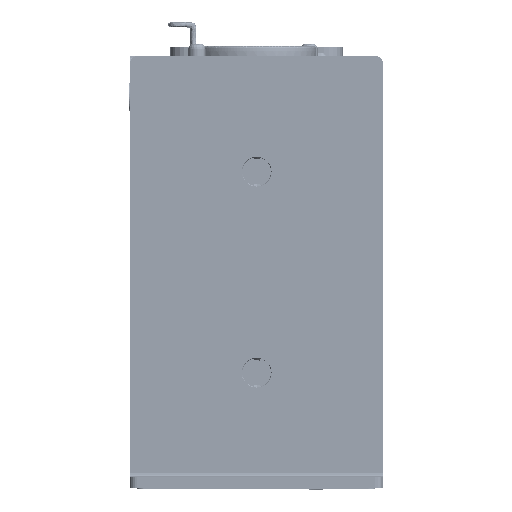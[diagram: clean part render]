
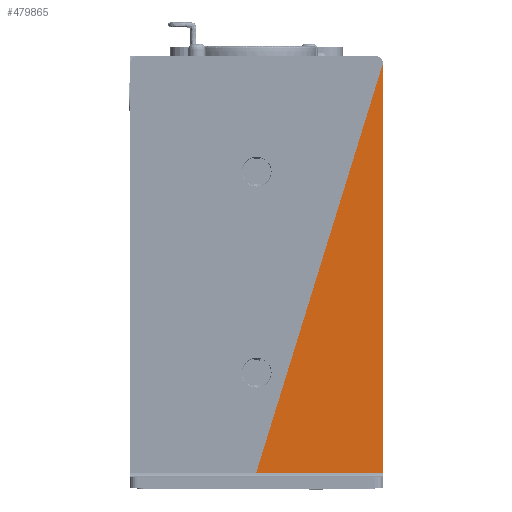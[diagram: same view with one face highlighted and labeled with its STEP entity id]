
A CAD part, left-side view. The second image highlights one B-rep face of the part: STEP entity #479865.
In plain terms, the highlighted planar face has unit normal (-1, 0, 0).
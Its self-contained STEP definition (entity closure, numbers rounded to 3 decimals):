
#465238 = VERTEX_POINT('',#465239);
#465239 = CARTESIAN_POINT('',(-232.006,-2.,-34.944));
#465252 = PLANE('',#465253);
#465253 = AXIS2_PLACEMENT_3D('',#465254,#465255,#465256);
#465254 = CARTESIAN_POINT('',(-231.499,-2.,1.116));
#465255 = DIRECTION('',(-0.,-1.,-0.));
#465256 = DIRECTION('',(0.,0.,-1.));
#465292 = EDGE_CURVE('',#465293,#465238,#465295,.T.);
#465293 = VERTEX_POINT('',#465294);
#465294 = CARTESIAN_POINT('',(-232.006,-2.,36.19));
#465295 = SURFACE_CURVE('',#465296,(#465300,#465307),.PCURVE_S1.);
#465296 = LINE('',#465297,#465298);
#465297 = CARTESIAN_POINT('',(-232.006,-2.,36.19));
#465298 = VECTOR('',#465299,1.);
#465299 = DIRECTION('',(0.,0.,-1.));
#465300 = PCURVE('',#465252,#465301);
#465301 = DEFINITIONAL_REPRESENTATION('',(#465302),#465306);
#465302 = LINE('',#465303,#465304);
#465303 = CARTESIAN_POINT('',(-35.074,-0.507));
#465304 = VECTOR('',#465305,1.);
#465305 = DIRECTION('',(1.,0.));
#465306 = ( GEOMETRIC_REPRESENTATION_CONTEXT(2) 
PARAMETRIC_REPRESENTATION_CONTEXT() REPRESENTATION_CONTEXT('2D SPACE',''
  ) );
#465307 = PCURVE('',#465308,#465313);
#465308 = PLANE('',#465309);
#465309 = AXIS2_PLACEMENT_3D('',#465310,#465311,#465312);
#465310 = CARTESIAN_POINT('',(-232.006,4.337,
    -4.049));
#465311 = DIRECTION('',(-1.,0.,0.));
#465312 = DIRECTION('',(-0.,-1.,0.));
#465313 = DEFINITIONAL_REPRESENTATION('',(#465314),#465317);
#465314 = B_SPLINE_CURVE_WITH_KNOTS('',1,(#465315,#465316),
  .UNSPECIFIED.,.F.,.F.,(2,2),(0.,71.134),
  .PIECEWISE_BEZIER_KNOTS.);
#465315 = CARTESIAN_POINT('',(6.337,40.239));
#465316 = CARTESIAN_POINT('',(6.337,-30.895));
#465317 = ( GEOMETRIC_REPRESENTATION_CONTEXT(2) 
PARAMETRIC_REPRESENTATION_CONTEXT() REPRESENTATION_CONTEXT('2D SPACE',''
  ) );
#465912 = PLANE('',#465913);
#465913 = AXIS2_PLACEMENT_3D('',#465914,#465915,#465916);
#465914 = CARTESIAN_POINT('',(-232.028,8.925,
    -35.027));
#465915 = DIRECTION('',(-0.966,-0.,0.259));
#465916 = DIRECTION('',(-0.259,0.,-0.966));
#465985 = VERTEX_POINT('',#465986);
#465986 = CARTESIAN_POINT('',(-232.006,20.02,
    -34.944));
#466035 = EDGE_CURVE('',#465238,#465985,#466036,.T.);
#466036 = SURFACE_CURVE('',#466037,(#466041,#466048),.PCURVE_S1.);
#466037 = LINE('',#466038,#466039);
#466038 = CARTESIAN_POINT('',(-232.006,-2.,-34.944));
#466039 = VECTOR('',#466040,1.);
#466040 = DIRECTION('',(0.,1.,0.));
#466041 = PCURVE('',#465912,#466042);
#466042 = DEFINITIONAL_REPRESENTATION('',(#466043),#466047);
#466043 = LINE('',#466044,#466045);
#466044 = CARTESIAN_POINT('',(-0.086,10.925));
#466045 = VECTOR('',#466046,1.);
#466046 = DIRECTION('',(0.,-1.));
#466047 = ( GEOMETRIC_REPRESENTATION_CONTEXT(2) 
PARAMETRIC_REPRESENTATION_CONTEXT() REPRESENTATION_CONTEXT('2D SPACE',''
  ) );
#466048 = PCURVE('',#465308,#466049);
#466049 = DEFINITIONAL_REPRESENTATION('',(#466050),#466053);
#466050 = B_SPLINE_CURVE_WITH_KNOTS('',1,(#466051,#466052),
  .UNSPECIFIED.,.F.,.F.,(2,2),(0.,22.02),
  .PIECEWISE_BEZIER_KNOTS.);
#466051 = CARTESIAN_POINT('',(6.337,-30.895));
#466052 = CARTESIAN_POINT('',(-15.682,-30.895));
#466053 = ( GEOMETRIC_REPRESENTATION_CONTEXT(2) 
PARAMETRIC_REPRESENTATION_CONTEXT() REPRESENTATION_CONTEXT('2D SPACE',''
  ) );
#479865 = ADVANCED_FACE('',(#479866),#465308,.T.);
#479866 = FACE_BOUND('',#479867,.T.);
#479867 = EDGE_LOOP('',(#479868,#479869,#479894));
#479868 = ORIENTED_EDGE('',*,*,#465292,.F.);
#479869 = ORIENTED_EDGE('',*,*,#479870,.T.);
#479870 = EDGE_CURVE('',#465293,#465985,#479871,.T.);
#479871 = SURFACE_CURVE('',#479872,(#479876,#479883),.PCURVE_S1.);
#479872 = LINE('',#479873,#479874);
#479873 = CARTESIAN_POINT('',(-232.006,-2.,36.19));
#479874 = VECTOR('',#479875,1.);
#479875 = DIRECTION('',(0.,0.296,-0.955));
#479876 = PCURVE('',#465308,#479877);
#479877 = DEFINITIONAL_REPRESENTATION('',(#479878),#479882);
#479878 = LINE('',#479879,#479880);
#479879 = CARTESIAN_POINT('',(6.337,40.239));
#479880 = VECTOR('',#479881,1.);
#479881 = DIRECTION('',(-0.296,-0.955));
#479882 = ( GEOMETRIC_REPRESENTATION_CONTEXT(2) 
PARAMETRIC_REPRESENTATION_CONTEXT() REPRESENTATION_CONTEXT('2D SPACE',''
  ) );
#479883 = PCURVE('',#479884,#479889);
#479884 = PLANE('',#479885);
#479885 = AXIS2_PLACEMENT_3D('',#479886,#479887,#479888);
#479886 = CARTESIAN_POINT('',(-232.006,9.643,
    0.784));
#479887 = DIRECTION('',(-1.,0.,0.));
#479888 = DIRECTION('',(-0.,-1.,0.));
#479889 = DEFINITIONAL_REPRESENTATION('',(#479890),#479893);
#479890 = B_SPLINE_CURVE_WITH_KNOTS('',1,(#479891,#479892),
  .UNSPECIFIED.,.F.,.F.,(2,2),(0.,74.464),
  .PIECEWISE_BEZIER_KNOTS.);
#479891 = CARTESIAN_POINT('',(11.643,35.406));
#479892 = CARTESIAN_POINT('',(-10.376,-35.728));
#479893 = ( GEOMETRIC_REPRESENTATION_CONTEXT(2) 
PARAMETRIC_REPRESENTATION_CONTEXT() REPRESENTATION_CONTEXT('2D SPACE',''
  ) );
#479894 = ORIENTED_EDGE('',*,*,#466035,.F.);
